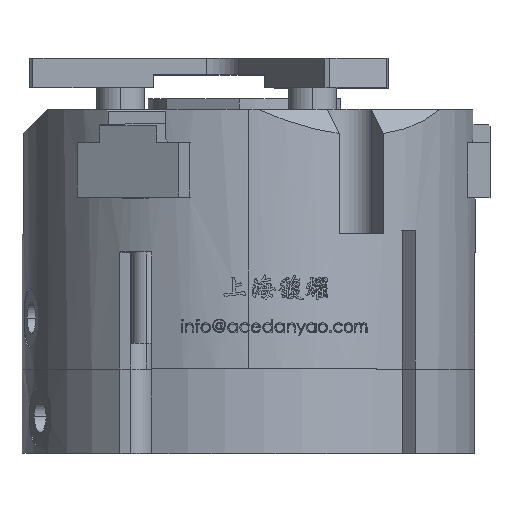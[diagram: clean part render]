
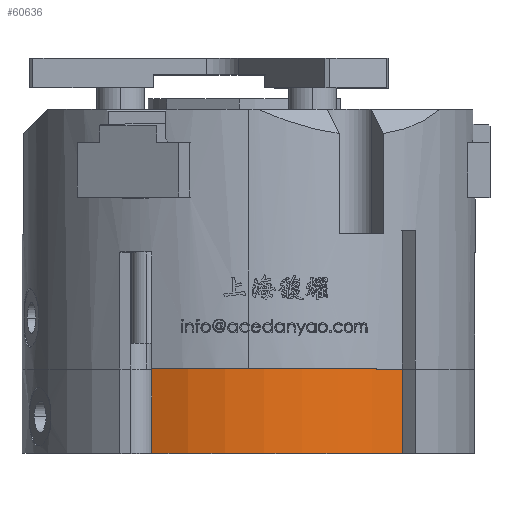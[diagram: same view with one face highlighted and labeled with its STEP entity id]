
A CAD part, top view. The second image highlights one B-rep face of the part: STEP entity #60636.
In plain terms, the highlighted cylindrical face has radius 62 mm (diameter 124 mm), a partial arc.
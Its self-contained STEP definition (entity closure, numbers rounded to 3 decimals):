
#3069 = ORIENTED_EDGE ( 'NONE', *, *, #47502, .T. ) ;
#11911 = CARTESIAN_POINT ( 'NONE',  ( -26.569, 0., 56.019 ) ) ;
#16028 = VERTEX_POINT ( 'NONE', #62234 ) ;
#16691 = VERTEX_POINT ( 'NONE', #59159 ) ;
#20601 = EDGE_CURVE ( 'NONE', #16691, #35288, #77429, .T. ) ;
#22948 = CARTESIAN_POINT ( 'NONE',  ( 42.037, 0., 45.573 ) ) ;
#23074 = LINE ( 'NONE', #22948, #40114 ) ;
#26262 = DIRECTION ( 'NONE',  ( -1., 0., 0. ) ) ;
#26768 = AXIS2_PLACEMENT_3D ( 'NONE', #72529, #28949, #79856 ) ;
#27645 = CYLINDRICAL_SURFACE ( 'NONE', #46222, 62. ) ;
#28949 = DIRECTION ( 'NONE',  ( 0., 1., 0. ) ) ;
#30967 = AXIS2_PLACEMENT_3D ( 'NONE', #79719, #36123, #87016 ) ;
#35288 = VERTEX_POINT ( 'NONE', #59789 ) ;
#36123 = DIRECTION ( 'NONE',  ( 0., -1., 0. ) ) ;
#36129 = ORIENTED_EDGE ( 'NONE', *, *, #61285, .T. ) ;
#36394 = VECTOR ( 'NONE', #70092, 1000. ) ;
#38768 = ORIENTED_EDGE ( 'NONE', *, *, #20601, .T. ) ;
#40114 = VECTOR ( 'NONE', #73824, 1000. ) ;
#41506 = VERTEX_POINT ( 'NONE', #62671 ) ;
#41815 = ORIENTED_EDGE ( 'NONE', *, *, #69506, .T. ) ;
#44085 = EDGE_LOOP ( 'NONE', ( #38768, #41815, #3069, #36129 ) ) ;
#46222 = AXIS2_PLACEMENT_3D ( 'NONE', #92399, #85084, #26262 ) ;
#47502 = EDGE_CURVE ( 'NONE', #16028, #41506, #67292, .T. ) ;
#51511 = FACE_OUTER_BOUND ( 'NONE', #44085, .T. ) ;
#59159 = CARTESIAN_POINT ( 'NONE',  ( 42.037, 0., 45.573 ) ) ;
#59789 = CARTESIAN_POINT ( 'NONE',  ( -26.569, 0., 56.019 ) ) ;
#60636 = ADVANCED_FACE ( 'NONE', ( #51511 ), #27645, .T. ) ;
#61285 = EDGE_CURVE ( 'NONE', #41506, #16691, #23074, .T. ) ;
#62234 = CARTESIAN_POINT ( 'NONE',  ( -26.569, -23., 56.019 ) ) ;
#62671 = CARTESIAN_POINT ( 'NONE',  ( 42.037, -23., 45.573 ) ) ;
#67292 = CIRCLE ( 'NONE', #26768, 62. ) ;
#69506 = EDGE_CURVE ( 'NONE', #35288, #16028, #75114, .T. ) ;
#70092 = DIRECTION ( 'NONE',  ( 0., -1., 0. ) ) ;
#72529 = CARTESIAN_POINT ( 'NONE',  ( 0., -23., 0. ) ) ;
#73824 = DIRECTION ( 'NONE',  ( 0., 1., 0. ) ) ;
#75114 = LINE ( 'NONE', #11911, #36394 ) ;
#77429 = CIRCLE ( 'NONE', #30967, 62. ) ;
#79719 = CARTESIAN_POINT ( 'NONE',  ( 0., 0., 0. ) ) ;
#79856 = DIRECTION ( 'NONE',  ( -1., 0., 0. ) ) ;
#85084 = DIRECTION ( 'NONE',  ( 0., 1., 0. ) ) ;
#87016 = DIRECTION ( 'NONE',  ( -1., 0., 0. ) ) ;
#92399 = CARTESIAN_POINT ( 'NONE',  ( 0., 0., 0. ) ) ;
